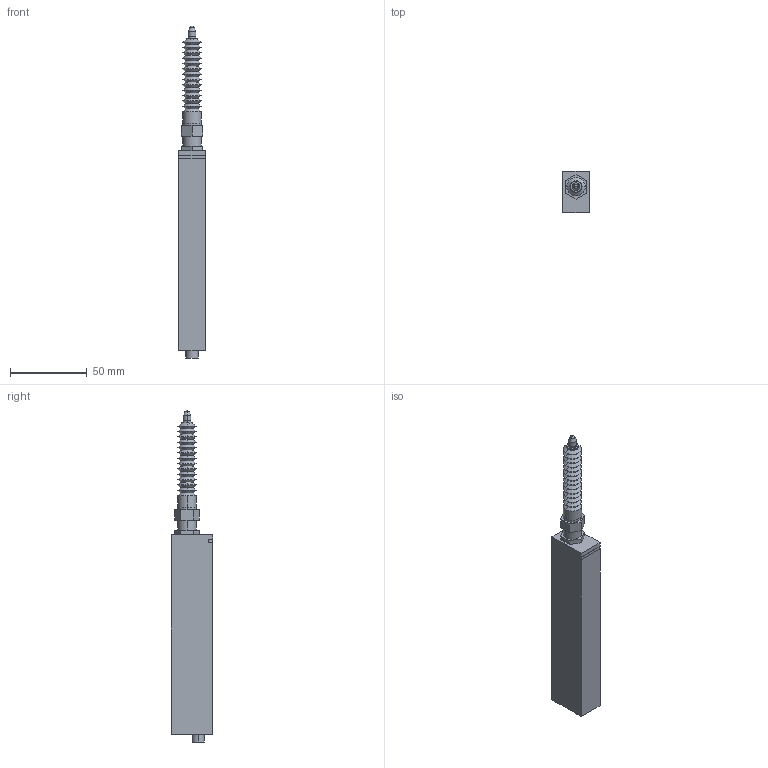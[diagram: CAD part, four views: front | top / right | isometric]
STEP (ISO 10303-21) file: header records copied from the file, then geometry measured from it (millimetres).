
FILE_DESCRIPTION (( 'STEP AP203' ), '1' );
FILE_NAME ('hg-s1032.STEP', '2017-01-23T01:45:06', ( '' ), ( '' ), 'SwSTEP 2.0', 'SolidWorks 2014', '' );
FILE_SCHEMA (( 'CONFIG_CONTROL_DESIGN' ));
Length unit declared in the file: millimetre
Products named in the file (5): hg-s1032_nut; hg-s1032_rubberbellows; tr-s10-c; hg-s1032
Assembly tree (4 placements, depth 2):
  hg-s1032
    hg-s1032
    hg-s1032_nut
    hg-s1032_rubberbellows
    tr-s10-c
Bounding box: 17.5 x 27 x 217 mm (x, y, z)
Volume: 68070.5 mm3; surface area: 19274.7 mm2
Topology: 4 solids, 4 shells, 136 faces, 286 edges, 171 vertices
Faces by surface type: cone 56, plane 44, cylinder 34, sphere 2
Entity records: 4133 total; most frequent: DIRECTION 696, CARTESIAN_POINT 600, ORIENTED_EDGE 572, EDGE_CURVE 286, AXIS2_PLACEMENT_3D 267, VERTEX_POINT 171, VECTOR 162, LINE 162
